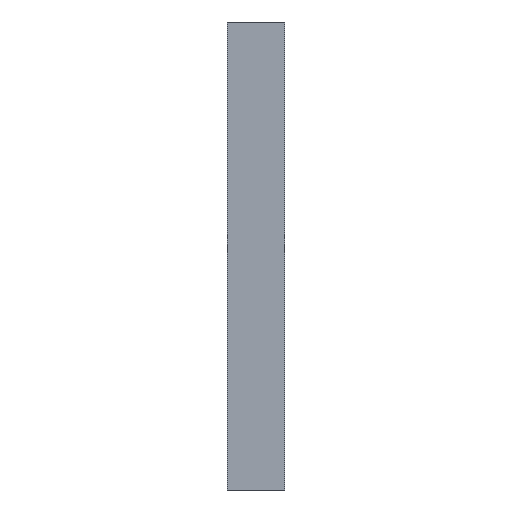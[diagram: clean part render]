
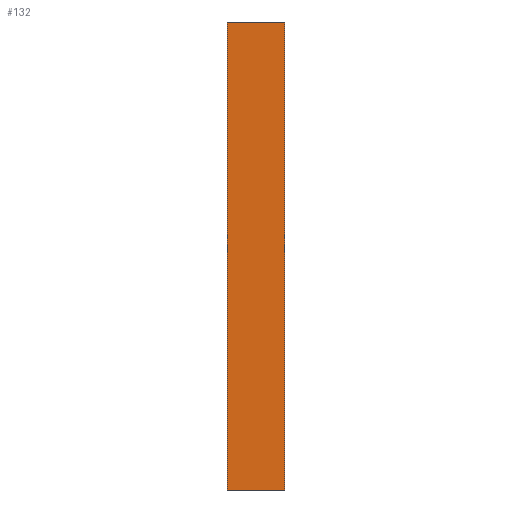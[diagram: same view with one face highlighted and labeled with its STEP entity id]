
A CAD part, left-side view. The second image highlights one B-rep face of the part: STEP entity #132.
In plain terms, the highlighted planar face has unit normal (-1, 0, 0).
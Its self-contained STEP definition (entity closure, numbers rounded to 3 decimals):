
#7 = EDGE_CURVE ( 'NONE', #214, #206, #147, .T. ) ;
#15 = EDGE_CURVE ( 'NONE', #212, #214, #153, .T. ) ;
#19 = EDGE_CURVE ( 'NONE', #212, #197, #174, .T. ) ;
#25 = AXIS2_PLACEMENT_3D ( 'NONE', #288, #298, #276 ) ;
#34 = EDGE_CURVE ( 'NONE', #197, #206, #94, .T. ) ;
#55 = ORIENTED_EDGE ( 'NONE', *, *, #7, .F. ) ;
#80 = FACE_OUTER_BOUND ( 'NONE', #125, .T. ) ;
#94 = LINE ( 'NONE', #240, #95 ) ;
#95 = VECTOR ( 'NONE', #260, 1000. ) ;
#108 = ORIENTED_EDGE ( 'NONE', *, *, #15, .F. ) ;
#109 = ORIENTED_EDGE ( 'NONE', *, *, #34, .T. ) ;
#110 = ORIENTED_EDGE ( 'NONE', *, *, #19, .T. ) ;
#125 = EDGE_LOOP ( 'NONE', ( #55, #108, #110, #109 ) ) ;
#132 = ADVANCED_FACE ( 'NONE', ( #80 ), #290, .T. ) ;
#147 = LINE ( 'NONE', #211, #154 ) ;
#153 = LINE ( 'NONE', #229, #170 ) ;
#154 = VECTOR ( 'NONE', #226, 1000. ) ;
#170 = VECTOR ( 'NONE', #237, 1000. ) ;
#174 = LINE ( 'NONE', #225, #175 ) ;
#175 = VECTOR ( 'NONE', #239, 1000. ) ;
#197 = VERTEX_POINT ( 'NONE', #272 ) ;
#206 = VERTEX_POINT ( 'NONE', #293 ) ;
#211 = CARTESIAN_POINT ( 'NONE',  ( -5.25, -15., 0. ) ) ;
#212 = VERTEX_POINT ( 'NONE', #311 ) ;
#214 = VERTEX_POINT ( 'NONE', #326 ) ;
#225 = CARTESIAN_POINT ( 'NONE',  ( -5.25, -15., -242.1 ) ) ;
#226 = DIRECTION ( 'NONE',  ( 0., -1., 0. ) ) ;
#229 = CARTESIAN_POINT ( 'NONE',  ( -5.25, 15., -242.1 ) ) ;
#237 = DIRECTION ( 'NONE',  ( 0., 0., 1. ) ) ;
#239 = DIRECTION ( 'NONE',  ( 0., -1., 0. ) ) ;
#240 = CARTESIAN_POINT ( 'NONE',  ( -5.25, -15., -242.1 ) ) ;
#260 = DIRECTION ( 'NONE',  ( 0., 0., 1. ) ) ;
#272 = CARTESIAN_POINT ( 'NONE',  ( -5.25, -15., -242.1 ) ) ;
#276 = DIRECTION ( 'NONE',  ( 0., 0., 1. ) ) ;
#288 = CARTESIAN_POINT ( 'NONE',  ( -5.25, -15., -242.1 ) ) ;
#290 = PLANE ( 'NONE',  #25 ) ;
#293 = CARTESIAN_POINT ( 'NONE',  ( -5.25, -15., 0. ) ) ;
#298 = DIRECTION ( 'NONE',  ( -1., 0., 0. ) ) ;
#311 = CARTESIAN_POINT ( 'NONE',  ( -5.25, 15., -242.1 ) ) ;
#326 = CARTESIAN_POINT ( 'NONE',  ( -5.25, 15., 0. ) ) ;
